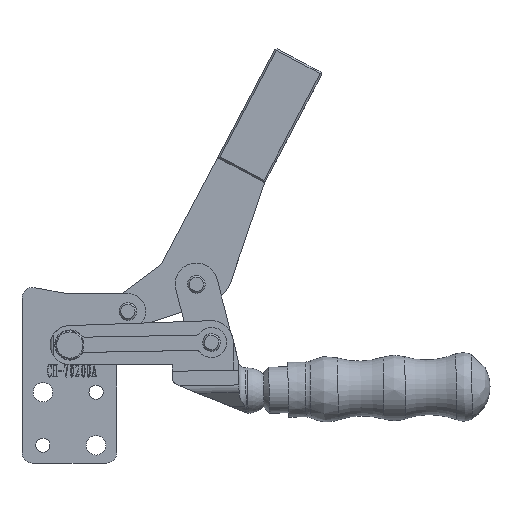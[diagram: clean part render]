
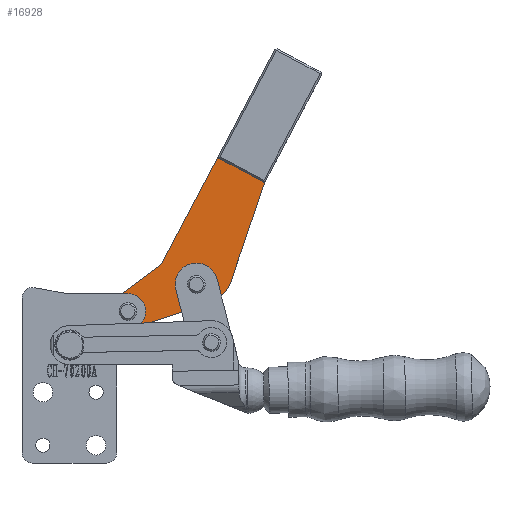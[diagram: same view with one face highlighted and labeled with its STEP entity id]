
A CAD part, top view. The second image highlights one B-rep face of the part: STEP entity #16928.
In plain terms, the highlighted planar face has unit normal (0, 0, 1).
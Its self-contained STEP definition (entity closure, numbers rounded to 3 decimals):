
#392=FACE_BOUND('',#2917,.T.);
#393=FACE_BOUND('',#2918,.T.);
#1218=PLANE('',#18443);
#1971=FACE_OUTER_BOUND('',#2916,.T.);
#2916=EDGE_LOOP('',(#14303,#14304,#14305,#14306,#14307,#14308,#14309));
#2917=EDGE_LOOP('',(#14310,#14311));
#2918=EDGE_LOOP('',(#14312,#14313));
#4295=LINE('',#37774,#5817);
#4298=LINE('',#37782,#5820);
#4301=LINE('',#37790,#5823);
#4303=LINE('',#37794,#5825);
#4305=LINE('',#37797,#5827);
#5817=VECTOR('',#21938,1000.);
#5820=VECTOR('',#21947,1000.);
#5823=VECTOR('',#21956,1000.);
#5825=VECTOR('',#21960,1000.);
#5827=VECTOR('',#21964,1000.);
#6602=CIRCLE('',#18349,3.);
#6603=CIRCLE('',#18350,3.);
#6606=CIRCLE('',#18354,3.);
#6607=CIRCLE('',#18355,3.);
#6652=CIRCLE('',#18436,10.);
#6653=CIRCLE('',#18439,5.);
#7849=VERTEX_POINT('',#37546);
#7850=VERTEX_POINT('',#37548);
#7853=VERTEX_POINT('',#37556);
#7854=VERTEX_POINT('',#37558);
#7926=VERTEX_POINT('',#37769);
#7927=VERTEX_POINT('',#37773);
#7928=VERTEX_POINT('',#37777);
#7929=VERTEX_POINT('',#37781);
#7930=VERTEX_POINT('',#37785);
#7931=VERTEX_POINT('',#37789);
#7932=VERTEX_POINT('',#37793);
#10048=EDGE_CURVE('',#7849,#7850,#6602,.T.);
#10049=EDGE_CURVE('',#7850,#7849,#6603,.T.);
#10053=EDGE_CURVE('',#7853,#7854,#6606,.T.);
#10054=EDGE_CURVE('',#7854,#7853,#6607,.T.);
#10160=EDGE_CURVE('',#7926,#7927,#4295,.T.);
#10163=EDGE_CURVE('',#7927,#7928,#6652,.T.);
#10164=EDGE_CURVE('',#7928,#7929,#4298,.T.);
#10166=EDGE_CURVE('',#7929,#7930,#6653,.T.);
#10168=EDGE_CURVE('',#7930,#7931,#4301,.T.);
#10170=EDGE_CURVE('',#7931,#7932,#4303,.T.);
#10172=EDGE_CURVE('',#7932,#7926,#4305,.T.);
#14303=ORIENTED_EDGE('',*,*,#10170,.F.);
#14304=ORIENTED_EDGE('',*,*,#10168,.F.);
#14305=ORIENTED_EDGE('',*,*,#10166,.F.);
#14306=ORIENTED_EDGE('',*,*,#10164,.F.);
#14307=ORIENTED_EDGE('',*,*,#10163,.F.);
#14308=ORIENTED_EDGE('',*,*,#10160,.F.);
#14309=ORIENTED_EDGE('',*,*,#10172,.F.);
#14310=ORIENTED_EDGE('',*,*,#10049,.F.);
#14311=ORIENTED_EDGE('',*,*,#10048,.F.);
#14312=ORIENTED_EDGE('',*,*,#10054,.F.);
#14313=ORIENTED_EDGE('',*,*,#10053,.F.);
#16928=ADVANCED_FACE('',(#1971,#392,#393),#1218,.F.);
#18349=AXIS2_PLACEMENT_3D('',#37549,#21704,#21705);
#18350=AXIS2_PLACEMENT_3D('',#37550,#21706,#21707);
#18354=AXIS2_PLACEMENT_3D('',#37559,#21715,#21716);
#18355=AXIS2_PLACEMENT_3D('',#37560,#21717,#21718);
#18436=AXIS2_PLACEMENT_3D('',#37779,#21943,#21944);
#18439=AXIS2_PLACEMENT_3D('',#37786,#21951,#21952);
#18443=AXIS2_PLACEMENT_3D('',#37798,#21965,#21966);
#21704=DIRECTION('center_axis',(0.,0.,1.));
#21705=DIRECTION('ref_axis',(1.,0.,0.));
#21706=DIRECTION('center_axis',(0.,0.,1.));
#21707=DIRECTION('ref_axis',(1.,0.,0.));
#21715=DIRECTION('center_axis',(0.,0.,1.));
#21716=DIRECTION('ref_axis',(1.,0.,0.));
#21717=DIRECTION('center_axis',(0.,0.,1.));
#21718=DIRECTION('ref_axis',(1.,0.,0.));
#21938=DIRECTION('',(0.988,0.156,0.));
#21943=DIRECTION('center_axis',(0.,0.,-1.));
#21944=DIRECTION('ref_axis',(-1.,0.,0.));
#21947=DIRECTION('',(0.72,-0.694,0.));
#21951=DIRECTION('center_axis',(0.,0.,-1.));
#21952=DIRECTION('ref_axis',(-1.,0.,0.));
#21956=DIRECTION('',(-0.904,0.427,0.));
#21960=DIRECTION('',(-1.,0.,0.));
#21964=DIRECTION('',(0.,1.,0.));
#21965=DIRECTION('center_axis',(0.,0.,-1.));
#21966=DIRECTION('ref_axis',(-1.,0.,0.));
#37546=CARTESIAN_POINT('',(165.207,-98.924,10.5));
#37548=CARTESIAN_POINT('',(171.207,-98.924,10.5));
#37549=CARTESIAN_POINT('Origin',(168.207,-98.924,10.5));
#37550=CARTESIAN_POINT('Origin',(168.207,-98.924,10.5));
#37556=CARTESIAN_POINT('',(149.401,-85.414,10.5));
#37558=CARTESIAN_POINT('',(155.401,-85.414,10.5));
#37559=CARTESIAN_POINT('Origin',(152.401,-85.414,10.5));
#37560=CARTESIAN_POINT('Origin',(152.401,-85.414,10.5));
#37769=CARTESIAN_POINT('',(118.007,-81.77,10.5));
#37773=CARTESIAN_POINT('',(147.037,-77.174,10.5));
#37774=CARTESIAN_POINT('',(118.007,-81.77,10.5));
#37777=CARTESIAN_POINT('',(155.541,-79.852,10.5));
#37779=CARTESIAN_POINT('Origin',(148.601,-87.051,10.5));
#37781=CARTESIAN_POINT('',(171.084,-94.835,10.5));
#37782=CARTESIAN_POINT('',(155.541,-79.852,10.5));
#37785=CARTESIAN_POINT('',(166.074,-103.446,10.5));
#37786=CARTESIAN_POINT('Origin',(168.207,-98.924,10.5));
#37789=CARTESIAN_POINT('',(151.925,-96.77,10.5));
#37790=CARTESIAN_POINT('',(166.074,-103.446,10.5));
#37793=CARTESIAN_POINT('',(118.007,-96.77,10.5));
#37794=CARTESIAN_POINT('',(118.007,-96.77,10.5));
#37797=CARTESIAN_POINT('',(118.007,-103.924,10.5));
#37798=CARTESIAN_POINT('Origin',(118.007,-103.924,10.5));
